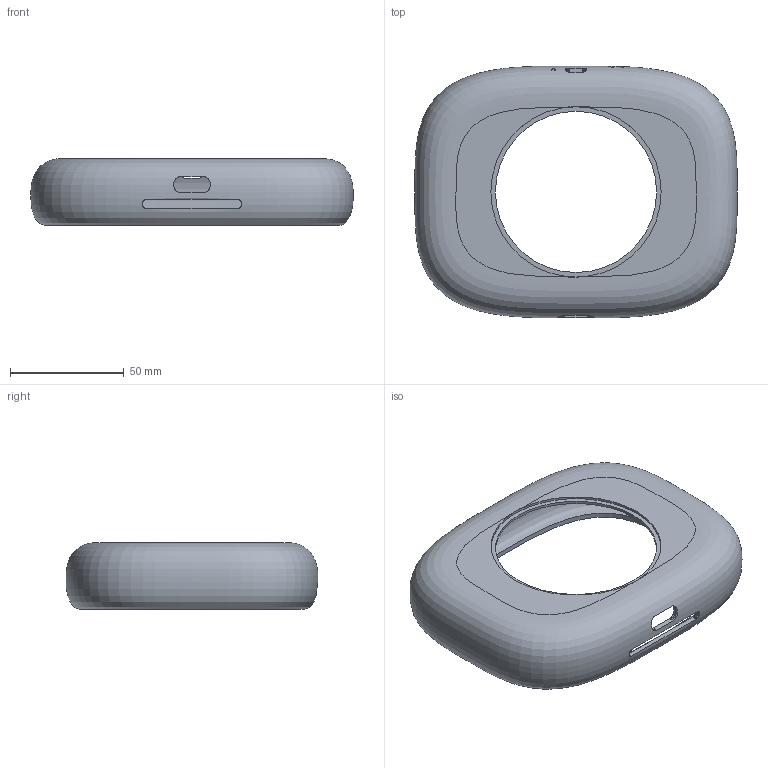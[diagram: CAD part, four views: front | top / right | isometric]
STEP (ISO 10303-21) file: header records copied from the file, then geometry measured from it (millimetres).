
FILE_DESCRIPTION(('Open CASCADE Model'),'2;1');
FILE_NAME('Open CASCADE Shape Model','2026-11-11T21:53:44',('Author'),( 'Open CASCADE'),'Open CASCADE STEP processor 8.0','build123d', 'Unknown');
FILE_SCHEMA(('AUTOMOTIVE_DESIGN { 1 0 10303 214 1 1 1 1 }'));
Products named in the file (1): SOLID
Bounding box: 141.97 x 110.98 x 29.5 mm (x, y, z)
Volume: 43847.1 mm3; surface area: 42670.7 mm2
Topology: 1 solids, 1 shells, 195 faces, 575 edges, 382 vertices
Faces by surface type: plane 188, cylinder 4, bspline 2, offset 1
Full cylindrical faces by diameter (mm): 2 x1, 7 x1, 71 x1, 75 x1
Entity records: 38981 total; most frequent: CARTESIAN_POINT 30793, B_SPLINE_CURVE_WITH_KNOTS 1684, ORIENTED_EDGE 1150, PCURVE 1150, DEFINITIONAL_REPRESENTATION 1150, EDGE_CURVE 575, SURFACE_CURVE 568, DIRECTION 432
